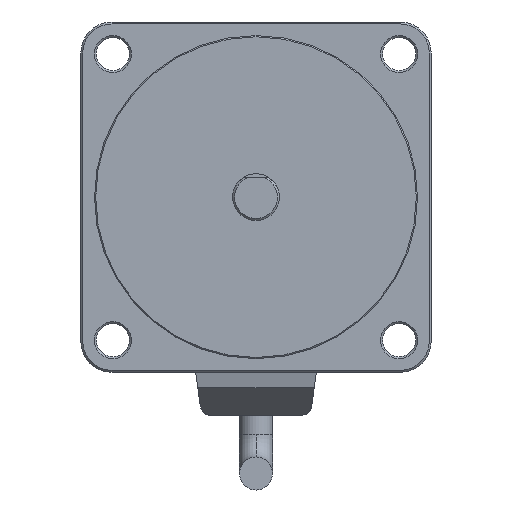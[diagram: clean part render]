
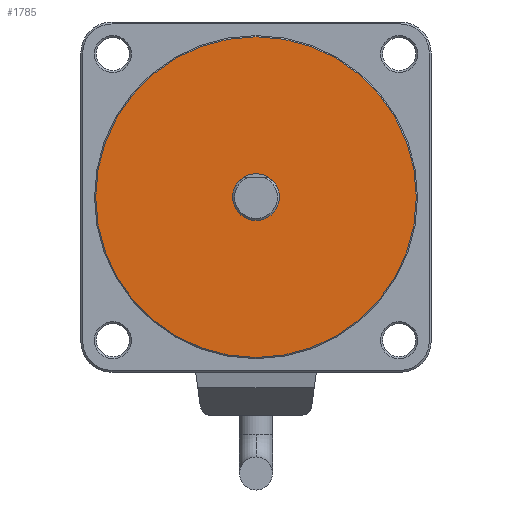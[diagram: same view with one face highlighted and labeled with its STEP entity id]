
A CAD part, front view. The second image highlights one B-rep face of the part: STEP entity #1785.
In plain terms, the highlighted planar face has unit normal (0, -1, 0).
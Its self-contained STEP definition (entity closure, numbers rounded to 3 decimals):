
#3 = CIRCLE ( 'NONE', #23763, 41.2 ) ;
#109 = CARTESIAN_POINT ( 'NONE',  ( 0., -2., 0. ) ) ;
#1678 = CARTESIAN_POINT ( 'NONE',  ( 41.2, -2., 0. ) ) ;
#1700 = DIRECTION ( 'NONE',  ( 1., 0., 0. ) ) ;
#1785 = ADVANCED_FACE ( 'NONE', ( #39283, #10209 ), #36104, .F. ) ;
#2371 = EDGE_CURVE ( 'NONE', #31808, #9643, #10383, .T. ) ;
#2453 = DIRECTION ( 'NONE',  ( 0., 1., 0. ) ) ;
#4567 = EDGE_CURVE ( 'NONE', #7460, #20079, #20230, .T. ) ;
#7001 = CARTESIAN_POINT ( 'NONE',  ( 0., -2., 0. ) ) ;
#7460 = VERTEX_POINT ( 'NONE', #22829 ) ;
#9643 = VERTEX_POINT ( 'NONE', #36899 ) ;
#10209 = FACE_BOUND ( 'NONE', #16986, .T. ) ;
#10383 = CIRCLE ( 'NONE', #13883, 6. ) ;
#11806 = DIRECTION ( 'NONE',  ( -1., 0., 0. ) ) ;
#13825 = DIRECTION ( 'NONE',  ( -1., 0., 0. ) ) ;
#13883 = AXIS2_PLACEMENT_3D ( 'NONE', #34568, #24780, #15239 ) ;
#15239 = DIRECTION ( 'NONE',  ( -1., 0., 0. ) ) ;
#16598 = EDGE_CURVE ( 'NONE', #9643, #31808, #38940, .T. ) ;
#16602 = ORIENTED_EDGE ( 'NONE', *, *, #16598, .T. ) ;
#16745 = ORIENTED_EDGE ( 'NONE', *, *, #4567, .F. ) ;
#16986 = EDGE_LOOP ( 'NONE', ( #36211, #16602 ) ) ;
#17505 = AXIS2_PLACEMENT_3D ( 'NONE', #109, #2453, #19421 ) ;
#17862 = DIRECTION ( 'NONE',  ( 0., 1., 0. ) ) ;
#19421 = DIRECTION ( 'NONE',  ( -1., 0., 0. ) ) ;
#19964 = DIRECTION ( 'NONE',  ( 0., 1., 0. ) ) ;
#20079 = VERTEX_POINT ( 'NONE', #1678 ) ;
#20230 = CIRCLE ( 'NONE', #17505, 41.2 ) ;
#20355 = EDGE_LOOP ( 'NONE', ( #16745, #20703 ) ) ;
#20420 = CARTESIAN_POINT ( 'NONE',  ( 0., -2., 0. ) ) ;
#20676 = AXIS2_PLACEMENT_3D ( 'NONE', #34322, #40889, #11806 ) ;
#20703 = ORIENTED_EDGE ( 'NONE', *, *, #33528, .F. ) ;
#22829 = CARTESIAN_POINT ( 'NONE',  ( -41.2, -2., 0. ) ) ;
#23763 = AXIS2_PLACEMENT_3D ( 'NONE', #20420, #17862, #13825 ) ;
#24780 = DIRECTION ( 'NONE',  ( 0., 1., 0. ) ) ;
#25003 = CARTESIAN_POINT ( 'NONE',  ( -6., -2., 0. ) ) ;
#31808 = VERTEX_POINT ( 'NONE', #25003 ) ;
#33528 = EDGE_CURVE ( 'NONE', #20079, #7460, #3, .T. ) ;
#34322 = CARTESIAN_POINT ( 'NONE',  ( 0., -2., 0. ) ) ;
#34568 = CARTESIAN_POINT ( 'NONE',  ( 0., -2., 0. ) ) ;
#36104 = PLANE ( 'NONE',  #38464 ) ;
#36211 = ORIENTED_EDGE ( 'NONE', *, *, #2371, .T. ) ;
#36899 = CARTESIAN_POINT ( 'NONE',  ( 6., -2., 0. ) ) ;
#38464 = AXIS2_PLACEMENT_3D ( 'NONE', #7001, #19964, #1700 ) ;
#38940 = CIRCLE ( 'NONE', #20676, 6. ) ;
#39283 = FACE_OUTER_BOUND ( 'NONE', #20355, .T. ) ;
#40889 = DIRECTION ( 'NONE',  ( 0., 1., 0. ) ) ;
